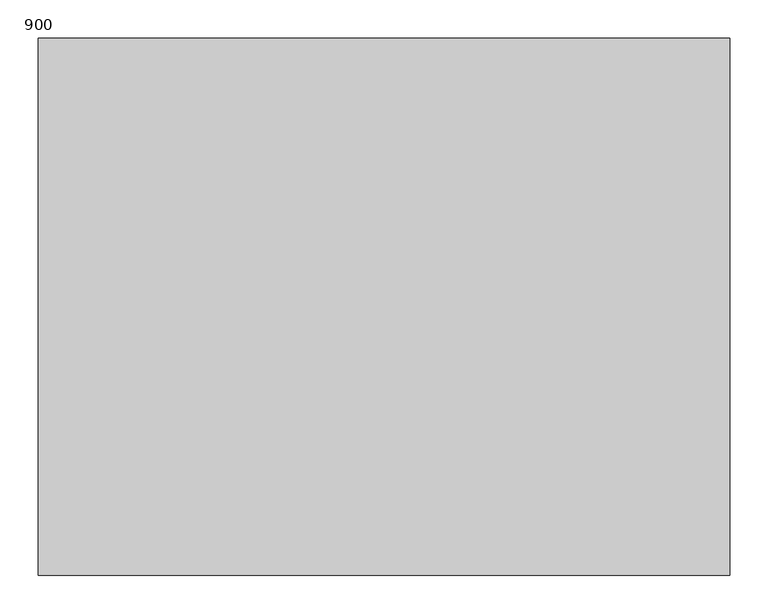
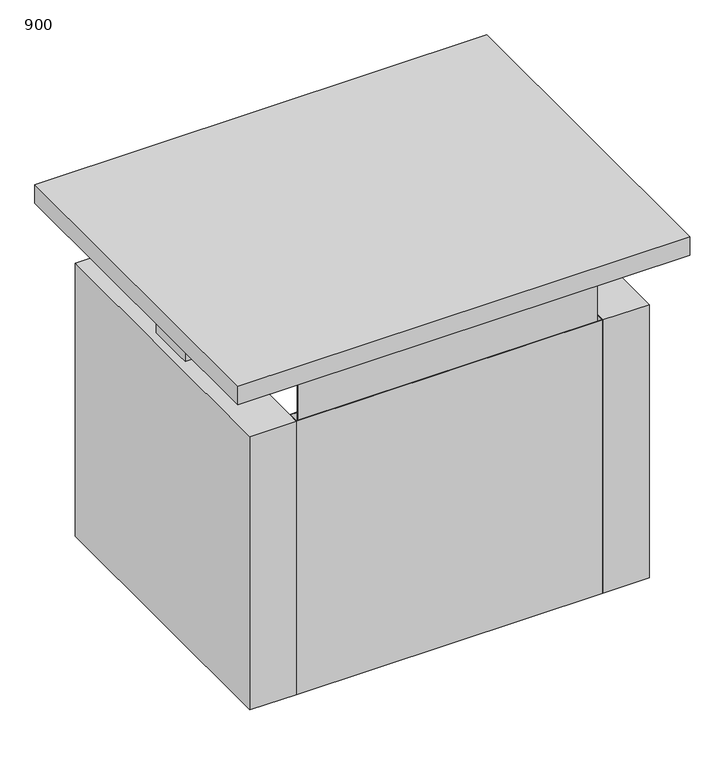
"""IFC4 building model written with IfcOpenShell, lengths in millimetres: furniture geometry, BK Library - Exlibris - Straight - Counter : 900."""

from ifc_helpers import new_model, si_unit, frame, origin, origin_with_axes, place, context, project, spatial, polyline, outline, extrude, source, transform, mapped, element, save


def furniture_900_de5ceb72(model_context):
    return source(origin(), model_context, "Body", "SweptSolid", [
        extrude(outline(polyline([(-287.75, 126.25), (-287.75, -123.75), (-414.75, -123.75), (-414.75, 126.25), (-287.75, 126.25)])), frame((0.0, 0.0, 687.0), z_axis=(0.0, 0.0, 1.0), x_axis=(1.0, 0.0, 0.0)), (0.0, 0.0, 1.0), 4.0),
        extrude(outline(polyline([(287.75, -123.75), (287.75, 126.25), (414.75, 126.25), (414.75, -123.75), (287.75, -123.75)])), frame((0.0, 0.0, 687.0), z_axis=(0.0, 0.0, 1.0), x_axis=(1.0, 0.0, 0.0)), (0.0, 0.0, 1.0), 4.0),
        extrude(outline(polyline([(268.7, -198.75), (268.7, -298.75), (-268.7, -298.75), (-268.7, -198.75), (268.7, -198.75)])), origin_with_axes(), (0.0, 0.0, 1.0), 22.0),
        extrude(outline(polyline([(268.7, -240.75), (268.7, -290.75), (-268.7, -290.75), (-268.7, -240.75), (268.7, -240.75)])), frame((0.0, 0.0, 139.0), z_axis=(0.0, 0.0, 1.0), x_axis=(1.0, 0.0, 0.0)), (0.0, 0.0, 1.0), 22.0),
        extrude(outline(polyline([(-450.0, -350.0), (-450.0, 350.0), (450.0, 350.0), (450.0, -350.0), (-450.0, -350.0)])), frame((0.0, 0.0, 691.0), z_axis=(0.0, 0.0, 1.0), x_axis=(1.0, 0.0, 0.0)), (0.0, 0.0, 1.0), 39.0),
        extrude(outline(polyline([(-397.5, 302.5), (-305.0, 302.5), (-305.0, -300.0), (-397.5, -300.0), (-397.5, 302.5)])), origin_with_axes(), (0.0, 0.0, 1.0), 575.0000153),
        extrude(outline(polyline([(397.5, -300.0), (305.0, -300.0), (305.0, 302.5), (397.5, 302.5), (397.5, -300.0)])), origin_with_axes(), (0.0, 0.0, 1.0), 575.0000153),
        extrude(outline(polyline([(-303.75, -277.95), (-303.75, -298.75), (303.75, -298.75), (303.75, -277.95), (288.7, -277.95), (288.7, -276.7), (305.0, -276.7), (305.0, -300.0), (-305.0, -300.0), (-305.0, -276.7), (-288.7, -276.7), (-288.7, -277.95), (-303.75, -277.95)])), origin_with_axes(), (0.0, 0.0, 1.0), 575.0000153),
        extrude(outline(polyline([(-297.5, -293.75), (-297.5, -290.75), (297.5, -290.75), (297.5, -293.75), (-297.5, -293.75)])), frame((0.0, 0.0, 139.0), z_axis=(0.0, 0.0, 1.0), x_axis=(1.0, 0.0, 0.0)), (0.0, 0.0, 1.0), 552.0),
        extrude(outline(polyline([(-321.25, 51.25), (-321.25, -48.75), (-381.25, -48.75), (-381.25, 51.25), (-321.25, 51.25)])), frame((0.0, 0.0, 575.0000153), z_axis=(0.0, 0.0, 1.0), x_axis=(1.0, 0.0, 0.0)), (0.0, 0.0, 1.0), 111.9999847),
        extrude(outline(polyline([(381.25, 51.25), (381.25, -48.75), (321.25, -48.75), (321.25, 51.25), (381.25, 51.25)])), frame((0.0, 0.0, 575.0000153), z_axis=(0.0, 0.0, 1.0), x_axis=(1.0, 0.0, 0.0)), (0.0, 0.0, 1.0), 111.9999847),
    ])


if __name__ == "__main__":
    model = new_model("IFC4")
    model_context = context("Model", 3, world=origin())
    ifc_project = project(units=[si_unit("LENGTHUNIT", "METRE", prefix="MILLI")], contexts=[model_context])
    site = spatial("IfcSite", under=ifc_project)
    building = spatial("IfcBuilding", under=site)
    placement = place(None, origin())
    furniture_900_shape = furniture_900_de5ceb72(model_context)
    element("IfcFurniture", 1, ObjectType="BK Library - Exlibris - Straight - Counter : 900", at=placement, inside=building, context=model_context, shape_type="MappedRepresentation", body=[
        mapped(furniture_900_shape, transform((0.0, 0.0, 0.0), x_axis=(1.0, 0.0, 0.0), y_axis=(0.0, 1.0, 0.0), z_axis=(0.0, 0.0, 1.0))),
    ])
    save(model, "model.ifc")
